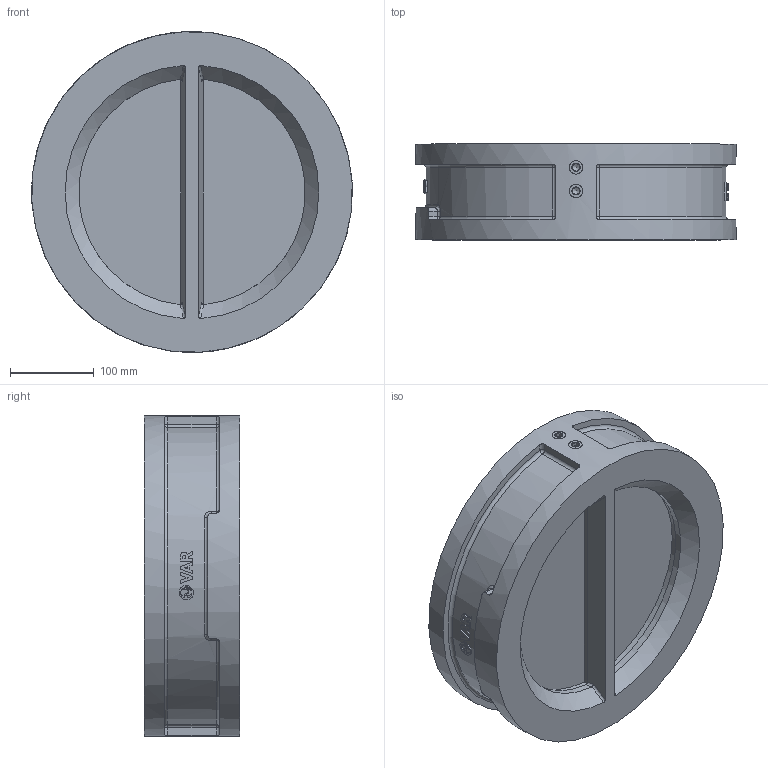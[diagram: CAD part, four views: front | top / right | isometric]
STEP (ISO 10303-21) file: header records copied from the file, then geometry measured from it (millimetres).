
FILE_DESCRIPTION(('STEP AP203'), '1');
FILE_NAME('VAR ZETKA 钺疣蝽 觌囡囗', '', ('UNSPECIFIED'), ('UNSPECIFIED'), 'C3D Converter', 'C3D Toolkit', '');
FILE_SCHEMA(('CONFIG_CONTROL_DESIGN'));
Length unit declared in the file: millimetre
Assembly tree (18 placements, depth 2):
  (unnamed)
    (unnamed)
    (unnamed)  x2
    (unnamed)  x4
    (unnamed)
    (unnamed)  x2
    (unnamed)  x2
    (unnamed)  x2
    (unnamed)  x2
    (unnamed)  x2
Bounding box: 381.43 x 114 x 382 mm (x, y, z)
Volume: 5304037.5 mm3; surface area: 729017.3 mm2
Topology: 33 solids, 33 shells, 592 faces, 1460 edges, 948 vertices
Faces by surface type: plane 247, extrusion 172, cylinder 117, bspline 22, cone 18, sphere 8, torus 8
Full cylindrical faces by diameter (mm): 4 x2, 7 x4, 10 x8, 14.4 x16, 16 x8, 17.194 x1, 26.4 x6, 306.5 x1, 310 x2, 382 x1
Entity records: 39513 total; most frequent: CARTESIAN_POINT 25738, ORIENTED_EDGE 2298, DIRECTION 1681, EDGE_CURVE 1149, VERTEX_POINT 771, VECTOR 625, B_SPLINE_CURVE_WITH_KNOTS 584, EDGE_LOOP 566
